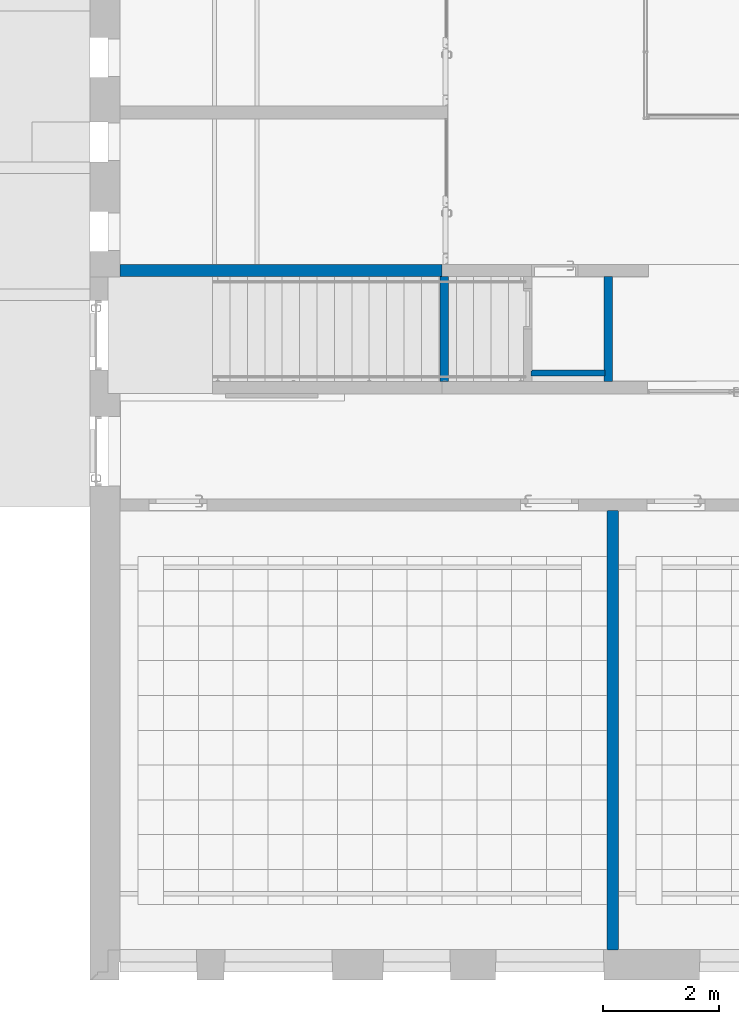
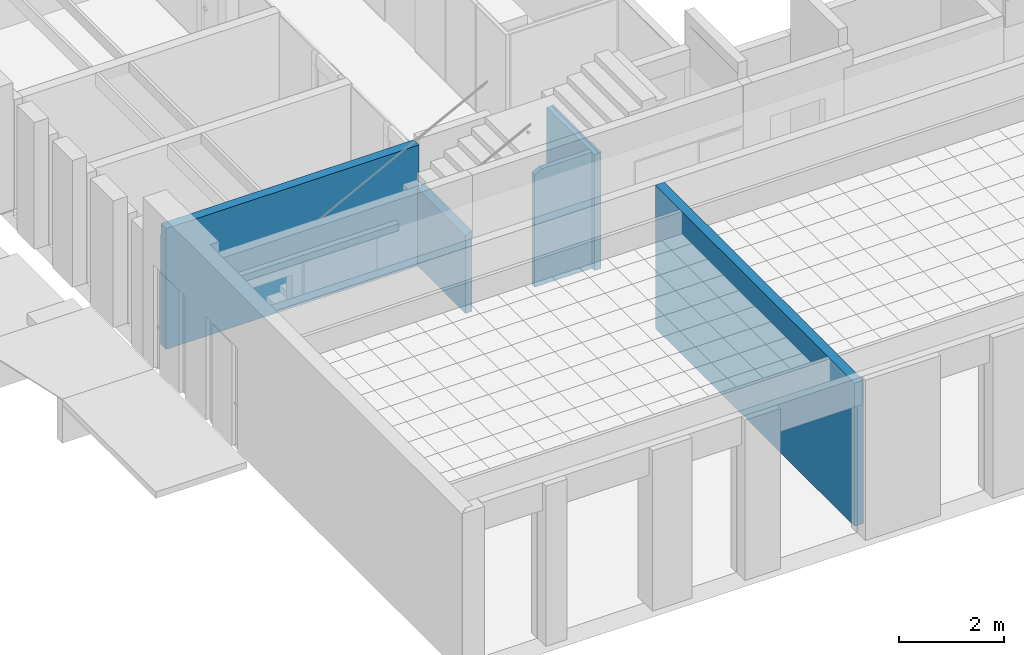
# One storey, part 38 of 79: 5 walls.
"""IFC2X3 building model written with IfcOpenShell, lengths in millimetres."""

import ifcopenshell
import ifcopenshell.guid

model = None  # the IFC model being written
_history = None  # IfcOwnerHistory: only IFC2X3 demands one
_inside = {}  # id of a spatial element -> (the spatial element, [elements in it])
_under = {}  # id of a project, library or spatial element -> (it, [spatial elements below it])
_declared = {}  # id of a project -> (the project, [libraries it declares])
_typed = {}  # id of a type object -> (the type object, [elements of that type])
_made_of = {}  # id of a material, layer set ... -> (it, [elements and type objects made of it])


def new_model(schema):
    """Start an empty IFC model of exactly this schema.

    Asked for "IFC4X3", IfcOpenShell would pick the latest addendum, in which some entities
    have other attributes; the version numbers below select the first issue.
    IFC2X3 requires an IfcOwnerHistory on every rooted entity: one is made here for all.
    """
    global model, _history
    if schema == "IFC4X3":
        model = ifcopenshell.file(schema_version=(4, 3, 0, 0))
    else:
        model = ifcopenshell.file(schema=schema)
    _inside.clear()
    _under.clear()
    _declared.clear()
    _typed.clear()
    _made_of.clear()
    _history = None
    if model.schema == "IFC2X3":
        org = make("IfcOrganization", Name="unknown")
        user = make(
            "IfcPersonAndOrganization",
            ThePerson=make("IfcPerson", FamilyName="unknown"),
            TheOrganization=org,
        )
        app = make(
            "IfcApplication",
            ApplicationDeveloper=org,
            Version="unknown",
            ApplicationFullName="unknown",
            ApplicationIdentifier="unknown",
        )
        _history = make(
            "IfcOwnerHistory",
            OwningUser=user,
            OwningApplication=app,
            ChangeAction="ADDED",
            CreationDate=0,
        )
    return model


def make(cls, **values):
    """One entity of the class cls with the attributes given. An attribute that is None is left unset."""
    return model.create_entity(
        cls, **{name: value for name, value in values.items() if value is not None}
    )


def entity(cls, *values):
    """Any entity or typed value of the class cls, its attributes in the order of the schema. None: left unset."""
    e = model.create_entity(cls)
    for i, value in enumerate(values):
        if value is not None:
            e[i] = value
    return e


def rooted(cls, **values):
    """An entity with a GlobalId (a new one), such as an element, a storey or a relation."""
    return make(cls, GlobalId=ifcopenshell.guid.new(), OwnerHistory=_history, **values)


def si_unit(unit_type, name, prefix=None):
    """IfcSIUnit, for example si_unit("LENGTHUNIT", "METRE", prefix="MILLI")."""
    return make("IfcSIUnit", UnitType=unit_type, Prefix=prefix, Name=name)


def converted_unit(unit_type, name, factor, base, dimensions=None, offset=None):
    """IfcConversionBasedUnit, such as the inch: factor (a typed value) times the base unit."""
    return make(
        "IfcConversionBasedUnit"
        if offset is None
        else "IfcConversionBasedUnitWithOffset",
        ConversionOffset=offset,
        Dimensions=None
        if dimensions is None
        else entity("IfcDimensionalExponents", *dimensions),
        UnitType=unit_type,
        Name=name,
        ConversionFactor=make(
            "IfcMeasureWithUnit", ValueComponent=factor, UnitComponent=base
        ),
    )


def derived_unit(unit_type, elements):
    """IfcDerivedUnit: a product of units, each with its exponent."""
    return make(
        "IfcDerivedUnit",
        Elements=[
            make("IfcDerivedUnitElement", Unit=unit, Exponent=power)
            for unit, power in elements
        ],
        UnitType=unit_type,
    )


def money_unit(currency):
    """IfcMonetaryUnit."""
    return make("IfcMonetaryUnit", Currency=currency)


def assignment(units):
    """IfcUnitAssignment: the units of a project."""
    return None if units is None else make("IfcUnitAssignment", Units=units)


def point(xyz):
    """IfcCartesianPoint."""
    return None if xyz is None else make("IfcCartesianPoint", Coordinates=xyz)


def direction(xyz):
    """IfcDirection."""
    return None if xyz is None else make("IfcDirection", DirectionRatios=xyz)


def frame(location, z_axis=None, x_axis=None):
    """IfcAxis2Placement3D, a coordinate frame: its origin and axes. An axis left out is left unset."""
    return make(
        "IfcAxis2Placement3D",
        Location=point(location),
        Axis=direction(z_axis),
        RefDirection=direction(x_axis),
    )


def origin_with_axes():
    """The frame at (0, 0, 0) with the z axis (0, 0, 1) and the x axis (1, 0, 0) written out."""
    return frame((0.0, 0.0, 0.0), z_axis=(0.0, 0.0, 1.0), x_axis=(1.0, 0.0, 0.0))


def place(relative_to, where):
    """IfcLocalPlacement: puts the frame where relative to a parent placement (None: the world)."""
    return make(
        "IfcLocalPlacement", PlacementRelTo=relative_to, RelativePlacement=where
    )


def context(
    kind, dimensions, precision=None, world=None, true_north=None, identifier=None
):
    """IfcGeometricRepresentationContext, for example the 3D "Model" context."""
    return make(
        "IfcGeometricRepresentationContext",
        ContextIdentifier=identifier,
        ContextType=kind,
        CoordinateSpaceDimension=dimensions,
        Precision=precision,
        WorldCoordinateSystem=world,
        TrueNorth=true_north,
    )


def subcontext(parent, identifier, kind, view, scale=None):
    """IfcGeometricRepresentationSubContext, for example "Body" below "Model"."""
    return make(
        "IfcGeometricRepresentationSubContext",
        ContextIdentifier=identifier,
        ContextType=kind,
        ParentContext=parent,
        TargetScale=scale,
        TargetView=view,
    )


def project(units=None, contexts=None):
    """IfcProject with its units and contexts."""
    return rooted(
        "IfcProject",
        Name="project",
        RepresentationContexts=contexts,
        UnitsInContext=assignment(units),
    )


def spatial(cls, under=None, at=None, **own):
    """A site, building, storey or space (cls), placed at a placement, below another one or the project."""
    s = rooted(cls, ObjectPlacement=at, **own)
    if under is not None:
        _under.setdefault(under.id(), (under, []))[1].append(s)
    return s


def faces_of(points, faces, orient=None, outer=None):
    """IfcFace entities. A face is a list of loops; a loop is a list of indices into points, from 0.

    orient and outer hold one flag for each loop. By default every Orientation is true, the
    first loop of a face is its IfcFaceOuterBound and the others are IfcFaceBound.
    """
    made = []
    for i, loops in enumerate(faces):
        bounds = []
        for j, loop in enumerate(loops):
            is_outer = j == 0 if outer is None else outer[i][j]
            bounds.append(
                make(
                    "IfcFaceOuterBound" if is_outer else "IfcFaceBound",
                    Bound=make("IfcPolyLoop", Polygon=[points[k] for k in loop]),
                    Orientation=True if orient is None else orient[i][j],
                )
            )
        made.append(make("IfcFace", Bounds=bounds))
    return made


def faceted_brep(points, faces, orient=None, outer=None, voids=None):
    """IfcFacetedBrep: a solid bounded by flat faces; with voids (closed shells), ...WithVoids."""
    shared = [point(p) for p in points]
    hull = make("IfcClosedShell", CfsFaces=faces_of(shared, faces, orient, outer))
    if voids is None:
        return make("IfcFacetedBrep", Outer=hull)
    return make(
        "IfcFacetedBrepWithVoids",
        Outer=hull,
        Voids=[
            make(cls, CfsFaces=faces_of(shared, fs, o, b)) for cls, fs, o, b in voids
        ],
    )


def shape(context_of_items, identifier, shape_type, items):
    """IfcShapeRepresentation: the items that make up one representation, for example the "Body"."""
    return make(
        "IfcShapeRepresentation",
        ContextOfItems=context_of_items,
        RepresentationIdentifier=identifier,
        RepresentationType=shape_type,
        Items=items,
    )


def material(Name=None, Category=None):
    """IfcMaterial."""
    return make("IfcMaterial", Name=Name, Category=Category)


def material_list(materials):
    """IfcMaterialList."""
    return make("IfcMaterialList", Materials=materials)


def made_of(thing, what):
    """Note that an element or type object is made of a material, layer set ...; save() writes the relation."""
    if what is not None:
        _made_of.setdefault(what.id(), (what, []))[1].append(thing)
    return thing


def type_object(cls, material=None, **own):
    """A type object (cls), such as IfcWallType, which elements share."""
    return made_of(rooted(cls, **own), material)


def element(
    cls,
    number,
    at=None,
    inside=None,
    cuts=None,
    type_object=None,
    material=None,
    context=None,
    identifier="Body",
    shape_type=None,
    held_by="IfcProductDefinitionShape",
    body=None,
    shapes=None,
    **own,
):
    """One element of the class cls, such as IfcWall. Its Tag is "e" and its number.

    at: its placement. inside: the storey or other place that contains it. cuts: it is an
    opening in that element (IfcRelVoidsElement). A single representation is given by context,
    identifier, shape_type and body (its items); several are given by shapes. held_by: the class
    of the entity that holds the representations. save() writes the other relations.
    """
    e = rooted(cls, Tag="e%d" % number, ObjectPlacement=at, **own)
    if body is not None:
        shapes = [shape(context, identifier, shape_type, body)]
    if shapes is not None:
        e.Representation = make(held_by, Representations=shapes)
    if inside is not None:
        _inside.setdefault(inside.id(), (inside, []))[1].append(e)
    if cuts is not None:
        rooted(
            "IfcRelVoidsElement", RelatingBuildingElement=cuts, RelatedOpeningElement=e
        )
    if type_object is not None:
        _typed.setdefault(type_object.id(), (type_object, []))[1].append(e)
    return made_of(e, material)


def aggregate(whole, parts):
    """IfcRelAggregates: a whole, such as a stair, and the parts it consists of."""
    return rooted("IfcRelAggregates", RelatingObject=whole, RelatedObjects=parts)


def save(model, path):
    """Write the relations noted so far, then the file.

    IfcRelAggregates (storeys below a building ...), IfcRelContainedInSpatialStructure (elements
    in a storey), IfcRelDefinesByType, IfcRelAssociatesMaterial and IfcRelDeclares: one each for
    every whole, place, type object, material and project.
    """
    for whole, parts in _under.values():
        aggregate(whole, parts)
    for where, things in _inside.values():
        rooted(
            "IfcRelContainedInSpatialStructure",
            RelatedElements=things,
            RelatingStructure=where,
        )
    for kind, things in _typed.values():
        rooted("IfcRelDefinesByType", RelatedObjects=things, RelatingType=kind)
    for what, things in _made_of.values():
        rooted("IfcRelAssociatesMaterial", RelatedObjects=things, RelatingMaterial=what)
    for by, libraries in _declared.values():
        rooted("IfcRelDeclares", RelatingContext=by, RelatedDefinitions=libraries)
    model.write(path)


model = new_model("IFC2X3")

# Units and contexts
model_context = context("Model", 3, precision=0.01, world=origin_with_axes(), true_north=direction((0.0, 1.0)))
body_context = subcontext(model_context, "Body", "Model", "MODEL_VIEW")
ifc_project = project(units=[si_unit("LENGTHUNIT", "METRE", prefix="MILLI"), si_unit("AREAUNIT", "SQUARE_METRE"), si_unit("VOLUMEUNIT", "CUBIC_METRE"), converted_unit("PLANEANGLEUNIT", "DEGREE", entity("IfcPlaneAngleMeasure", 0.0174532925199), si_unit("PLANEANGLEUNIT", "RADIAN"), dimensions=[0, 0, 0, 0, 0, 0, 0]), si_unit("SOLIDANGLEUNIT", "STERADIAN"), money_unit("EUR"), converted_unit("TIMEUNIT", "Year", entity("IfcTimeMeasure", 31556926.0), si_unit("TIMEUNIT", "SECOND"), dimensions=[0, 0, 1, 0, 0, 0, 0]), si_unit("MASSUNIT", "GRAM", prefix="KILO"), si_unit("THERMODYNAMICTEMPERATUREUNIT", "DEGREE_CELSIUS"), si_unit("LUMINOUSINTENSITYUNIT", "LUMEN"), si_unit("ENERGYUNIT", "JOULE", prefix="MEGA"), derived_unit("THERMALCONDUCTANCEUNIT", [(si_unit("POWERUNIT", "WATT"), 1), (si_unit("LENGTHUNIT", "METRE"), -1), (si_unit("THERMODYNAMICTEMPERATUREUNIT", "KELVIN"), -1)]), derived_unit("SPECIFICHEATCAPACITYUNIT", [(si_unit("ENERGYUNIT", "JOULE"), 1), (si_unit("MASSUNIT", "GRAM", prefix="KILO"), -1), (si_unit("THERMODYNAMICTEMPERATUREUNIT", "KELVIN"), -1)]), derived_unit("MASSDENSITYUNIT", [(si_unit("MASSUNIT", "GRAM", prefix="KILO"), 1), (si_unit("VOLUMEUNIT", "CUBIC_METRE"), -1)])], contexts=[model_context])

# Site, building, storey
site_placement = place(None, origin_with_axes())
site = spatial("IfcSite", under=ifc_project, at=site_placement, Name="L.Koidula tn 11b", CompositionType="ELEMENT")
building_placement = place(site_placement, origin_with_axes())
building = spatial("IfcBuilding", under=site, at=building_placement, Name="Rakvere Riigigümnaasium", CompositionType="ELEMENT")
storey_placement = place(building_placement, frame((0.0, 0.0, 3720.0), z_axis=(0.0, 0.0, 1.0), x_axis=(1.0, 0.0, 0.0)))
storey = spatial("IfcBuildingStorey", under=building, at=storey_placement, Name="2.korrus +3,72", CompositionType="ELEMENT", Elevation=3720.0)

# Walls
ifc_material_1 = material(Name="siseviimistlus-seinad")
ifc_material_2 = material(Name="Betoon element / plaat")
ifc_material_list_1 = material_list([ifc_material_1, ifc_material_2])
wall_type_1 = type_object("IfcWallType", Name="SS-01-1 210", PredefinedType="NOTDEFINED")
wall_1_placement = place(storey_placement, frame((35500.0000521, 17110.4555095, 0.0), z_axis=(0.0, 0.0, 1.0), x_axis=(1.0, 0.0, 0.0)))
element("IfcWall", 1, at=wall_1_placement, inside=storey, type_object=wall_type_1, material=ifc_material_list_1, Name="Sisesein", context=body_context, shape_type="Brep", body=[
    faceted_brep([(0.0, 210.0, 2550.0), (5550.00093, 210.0, 2550.0), (5550.00093, 210.0, 0.0), (0.0, 210.0, 0.0), (5550.00093, 199.999999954, 2550.0), (0.0, 199.999999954, 2550.0), (5550.00093, 200.0, 0.0), (0.0, 200.0, 0.0)], [[[0, 1, 2, 3]], [[4, 1, 0, 5]], [[1, 4, 6, 2]], [[6, 7, 3, 2]], [[5, 0, 3, 7]], [[4, 5, 7, 6]]]),
    faceted_brep([(5550.00093, 200.0, 0.0), (0.0, 200.0, 0.0), (0.0, 200.0, 2802.4514176), (5550.00093, 200.0, 2802.4514176), (5550.00093, 0.0, 0.0), (0.0, 0.0, 0.0), (0.0, 0.0, 2802.4514176), (5550.00093, 0.0, 2802.4514176)], [[[0, 1, 2, 3]], [[4, 5, 1, 0]], [[5, 6, 2, 1]], [[3, 2, 6, 7]], [[0, 3, 7, 4]], [[7, 6, 5, 4]]]),
])
ifc_material_3 = material(Name="Krohv")
ifc_material_4 = material(Name="Silikaat plokk")
ifc_material_list_2 = material_list([ifc_material_3, ifc_material_4, ifc_material_3])
wall_type_2 = type_object("IfcWallType", Name="SS-05 140", PredefinedType="NOTDEFINED")
wall_2_placement = place(storey_placement, frame((43859.9998372, 17110.4539878, 0.0), z_axis=(0.0, 0.0, 1.0), x_axis=(0.0, -1.0, 0.0)))
element("IfcWall", 2, at=wall_2_placement, inside=storey, type_object=wall_type_2, material=ifc_material_list_2, Name="Sisesein", context=body_context, shape_type="Brep", body=[
    faceted_brep([(-0.00581431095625, 119.999999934, 2709.56368433), (-0.00596805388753, 129.999999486, 2714.73035165), (-0.00152167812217, 130.0, 0.0), (-0.00152167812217, 120.0, 0.0), (1809.99402901, 130.000000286, 2714.71599708), (1809.99418275, 119.999999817, 2709.54932976), (1809.97545759, 130.0, 0.0), (1809.97545759, 120.0, 0.0)], [[[0, 1, 2, 3]], [[4, 1, 0, 5]], [[1, 4, 6, 2]], [[7, 3, 2, 6]], [[5, 0, 3, 7]], [[4, 5, 7, 6]]]),
    faceted_brep([(-0.00396939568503, -3.76303432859e-08, 2695.0), (-0.00538094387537, 91.8122286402, 2695.0), (-0.0058143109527, 119.999999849, 2709.56368428), (-0.00152167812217, 120.0, 0.0), (-0.00152167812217, 0.0, 0.0), (1809.99602758, 3.16234149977e-07, 2695.0), (1809.99461567, 91.8400089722, 2695.0), (1809.99418275, 120.000000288, 2709.54933), (1809.97545759, 120.0, 0.0), (1809.97545759, 0.0, 0.0)], [[[0, 1, 2, 3, 4]], [[1, 0, 5, 6]], [[7, 2, 1, 6]], [[2, 7, 8, 3]], [[9, 4, 3, 8]], [[5, 0, 4, 9]], [[6, 5, 9, 8, 7]]]),
    faceted_brep([(-0.00381565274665, -10.0000000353, 2695.0), (-0.00396939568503, -3.76303432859e-08, 2695.0), (-0.00152167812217, 0.0, 0.0), (-0.00152167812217, -10.0, 0.0), (1609.97545759, 0.0, 2695.0), (1609.97545759, -10.0, 2695.0), (1609.97545759, 0.0, 0.0), (1609.97545759, -10.0, 0.0)], [[[0, 1, 2, 3]], [[4, 1, 0, 5]], [[1, 4, 6, 2]], [[7, 3, 2, 6]], [[5, 0, 3, 7]], [[4, 5, 7, 6]]]),
    faceted_brep([(1716.47545759, -10.0, 2695.0), (1716.47545759, 0.0, 2695.0), (1716.47545759, 0.0, 0.0), (1716.47545759, -10.0, 0.0), (1809.97545759, 0.0, 2695.0), (1809.97545759, -10.0, 2695.0), (1809.97545759, 0.0, 0.0), (1809.97545759, -10.0, 0.0)], [[[0, 1, 2, 3]], [[4, 1, 0, 5]], [[1, 4, 6, 2]], [[3, 2, 6, 7]], [[5, 0, 3, 7]], [[4, 5, 7, 6]]]),
])
ifc_material_5 = material(Name="Keraamiline plaat")
ifc_material_6 = material(Name="Kipsplaat")
ifc_material_7 = material(Name="mineraalvill+karkass")
ifc_material_list_3 = material_list([ifc_material_5, ifc_material_6, ifc_material_6, ifc_material_7])
wall_type_3 = type_object("IfcWallType", Name="SS-09 107", PredefinedType="NOTDEFINED")
wall_3_placement = place(storey_placement, frame((42590.0000029, 15459.9785302, 0.0), z_axis=(0.0, 0.0, 1.0), x_axis=(1.0, 0.0, 0.0)))
element("IfcWall", 3, at=wall_3_placement, inside=storey, type_object=wall_type_3, material=ifc_material_list_3, Name="Sisesein", context=body_context, shape_type="Brep", body=[
    faceted_brep([(15.0, 40.4999996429, 2619.13274741), (161.839839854, 40.4999996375, 2694.999998), (1269.99983436, 40.4999999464, 2695.0), (1269.99983436, 40.5, 0.0), (15.0, 40.5, 0.0), (15.0, 25.5000009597, 2619.13274741), (161.839839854, 25.5000009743, 2694.999998), (1269.99983436, 25.500000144, 2695.0), (1269.99983436, 25.5, 0.0), (15.0, 25.5, 0.0)], [[[0, 1, 2, 3, 4]], [[1, 0, 5, 6]], [[7, 2, 1, 6]], [[2, 7, 8, 3]], [[8, 9, 4, 3]], [[5, 0, 4, 9]], [[6, 5, 9, 8, 7]]]),
    faceted_brep([(0.0, 25.5000009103, 2611.38274741), (161.839839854, 25.5, 2694.999998), (1269.99983436, 25.500000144, 2695.0), (1269.99983436, 25.5, 0.0), (0.0, 25.5, 0.0), (0.0, 12.5, 2611.38274741), (161.839839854, 12.5, 2694.999998), (1269.99983436, 12.5, 2695.0), (1269.99983436, 12.5, 0.0), (0.0, 12.5, 0.0)], [[[0, 1, 2, 3, 4]], [[1, 0, 5, 6]], [[7, 2, 1, 6]], [[2, 7, 8, 3]], [[8, 9, 4, 3]], [[5, 0, 4, 9]], [[6, 5, 9, 8, 7]]]),
    faceted_brep([(0.0, 12.5, 2611.38274741), (161.839839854, 12.5, 2694.999998), (1269.99983436, 12.5, 2695.0), (1269.99983436, 12.5, 0.0), (0.0, 12.5, 0.0), (0.0, 1.90512494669e-07, 2611.38274741), (161.839839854, 2.03908001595e-07, 2694.999998), (1269.99983436, 3.01465519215e-08, 2695.0), (1269.99983436, 0.0, 0.0), (0.0, 0.0, 0.0)], [[[0, 1, 2, 3, 4]], [[1, 0, 5, 6]], [[7, 2, 1, 6]], [[2, 7, 8, 3]], [[8, 9, 4, 3]], [[5, 0, 4, 9]], [[6, 5, 9, 8, 7]]]),
    faceted_brep([(0.0, 1.90512494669e-07, 2611.38274741), (161.839839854, 0.0, 2694.999998), (1269.99983436, 3.01465519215e-08, 2695.0), (1269.99983436, 0.0, 0.0), (0.0, 0.0, 0.0), (0.0, -66.0, 2611.38274741), (161.839839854, -66.0, 2694.999998), (1269.99983436, -66.0, 2695.0), (1269.99983436, -66.0, 0.0), (0.0, -66.0, 0.0)], [[[0, 1, 2, 3, 4]], [[1, 0, 5, 6]], [[7, 2, 1, 6]], [[2, 7, 8, 3]], [[8, 9, 4, 3]], [[5, 0, 4, 9]], [[6, 5, 9, 8, 7]]]),
])
wall_type_4 = type_object("IfcWallType", Name="SS-04 200", PredefinedType="NOTDEFINED")
wall_4_placement = place(storey_placement, frame((43910.0000025, 13280.4543717, 0.0), z_axis=(0.0, 0.0, 1.0), x_axis=(0.0, -1.0, 0.0)))
element("IfcWall", 4, at=wall_4_placement, inside=storey, type_object=wall_type_4, material=ifc_material_list_2, Name="Sisesein", context=body_context, shape_type="Brep", body=[
    faceted_brep([(7769.99883287, 180.0, 3320.0), (7769.99883287, 190.0, 3320.0), (210.0, 190.0, 3320.00000006), (210.0, 180.0, 3320.00000006), (7769.99883287, 180.0, 0.0), (7769.99883287, 190.0, 0.0), (210.0, 190.0, 0.0), (210.0, 180.0, 0.0)], [[[0, 1, 2, 3]], [[1, 0, 4, 5]], [[1, 5, 6, 2]], [[3, 2, 6, 7]], [[0, 3, 7, 4]], [[5, 4, 7, 6]]]),
    faceted_brep([(7779.99883287, 0.0, 3320.0), (7779.99883287, 180.0, 3320.0), (200.0, 180.0, 3320.00000006), (200.0, 0.0, 3320.00000006), (7779.99883287, 0.0, 0.0), (7779.99883287, 180.0, 0.0), (200.0, 180.0, 0.0), (200.0, 0.0, 0.0)], [[[0, 1, 2, 3]], [[1, 0, 4, 5]], [[1, 5, 6, 2]], [[3, 2, 6, 7]], [[0, 3, 7, 4]], [[5, 4, 7, 6]]]),
    faceted_brep([(7769.99883287, -10.0, 3320.0), (7769.99883287, 0.0, 3320.0), (210.0, 0.0, 3320.00000006), (210.0, -10.0, 3320.00000006), (7769.99883287, -10.0, 0.0), (7769.99883287, 0.0, 0.0), (210.0, 0.0, 0.0), (210.0, -10.0, 0.0)], [[[0, 1, 2, 3]], [[1, 0, 4, 5]], [[1, 5, 6, 2]], [[3, 2, 6, 7]], [[0, 3, 7, 4]], [[5, 4, 7, 6]]]),
])
ifc_material_list_4 = material_list([ifc_material_3, ifc_material_4, ifc_material_5])
wall_type_5 = type_object("IfcWallType", Name="SS-05-1-1 145", PredefinedType="NOTDEFINED")
wall_5_placement = place(storey_placement, frame((41150.0073165, 15100.47699, 0.0), z_axis=(0.0, 0.0, 1.0), x_axis=(0.0, 1.0, 0.0)))
element("IfcWall", 5, at=wall_5_placement, inside=storey, type_object=wall_type_5, material=ifc_material_list_4, Name="Sisesein", context=body_context, shape_type="Brep", body=[
    faceted_brep([(2009.97851047, 130.0, 1800.21985947), (2009.97851047, 120.0, 1805.38652614), (2009.9785195, 120.0, 0.0), (2009.9785195, 130.0, 0.0), (200.001540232, 120.0, 1805.38652614), (200.001540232, 130.0, 1800.21985947), (200.001540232, 120.0, 0.0), (200.001540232, 130.0, 0.0)], [[[0, 1, 2, 3]], [[4, 1, 0, 5]], [[1, 4, 6, 2]], [[3, 2, 6, 7]], [[5, 0, 3, 7]], [[4, 5, 7, 6]]]),
    faceted_brep([(2009.97851047, 120.0, 1805.38652614), (2009.97851047, 75.0073152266, 1828.6327466), (2009.97851047, 0.00731522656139, 1867.3827466), (2009.9785195, 0.0, 0.0), (2009.9785195, 120.0, 0.0), (200.001540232, 120.0, 1805.38652614), (200.001540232, 75.0073152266, 1828.6327466), (200.001540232, 0.00731522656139, 1867.3827466), (200.001540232, 0.0, 0.0), (200.001540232, 120.0, 0.0)], [[[0, 1, 2, 3, 4]], [[1, 0, 5, 6]], [[2, 1, 6, 7]], [[2, 7, 8, 3]], [[4, 3, 8, 9]], [[5, 0, 4, 9]], [[6, 5, 9, 8, 7]]]),
    faceted_brep([(2009.97851047, 0.00731522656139, 1867.3827466), (2009.97851047, -15.0, 1875.13652614), (2009.9785195, -15.0, 0.0), (2009.9785195, 0.0, 0.0), (200.001540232, -15.0, 1875.13652614), (200.001540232, 0.00731522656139, 1867.3827466), (200.001540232, -15.0, 0.0), (200.001540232, 0.0, 0.0)], [[[0, 1, 2, 3]], [[4, 1, 0, 5]], [[1, 4, 6, 2]], [[3, 2, 6, 7]], [[5, 0, 3, 7]], [[4, 5, 7, 6]]]),
])

save(model, "model.ifc")
